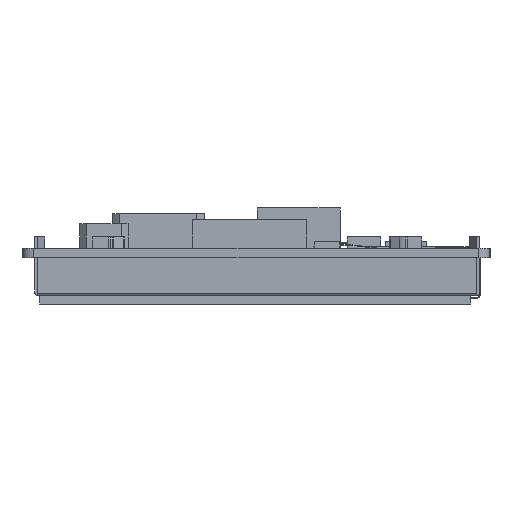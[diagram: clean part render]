
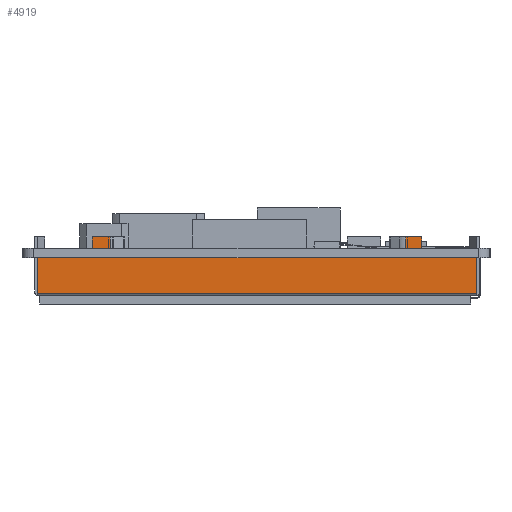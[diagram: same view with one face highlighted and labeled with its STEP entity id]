
A CAD part, left-side view. The second image highlights one B-rep face of the part: STEP entity #4919.
In plain terms, the highlighted planar face has unit normal (-1, 0, 0).
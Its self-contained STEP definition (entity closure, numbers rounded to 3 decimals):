
#3511=PLANE('',#32821);
#4919=ADVANCED_FACE('',(#6550),#3511,.F.);
#6550=FACE_OUTER_BOUND('',#8044,.T.);
#8044=EDGE_LOOP('',(#15686,#15687,#15688,#15689,#15690,#15691,#15692,#15693,
#15694,#15695,#15696,#15697,#15698,#15699,#15700,#15701));
#15686=ORIENTED_EDGE('',*,*,#23243,.F.);
#15687=ORIENTED_EDGE('',*,*,#23244,.T.);
#15688=ORIENTED_EDGE('',*,*,#23245,.T.);
#15689=ORIENTED_EDGE('',*,*,#23240,.T.);
#15690=ORIENTED_EDGE('',*,*,#23246,.T.);
#15691=ORIENTED_EDGE('',*,*,#23247,.F.);
#15692=ORIENTED_EDGE('',*,*,#23248,.T.);
#15693=ORIENTED_EDGE('',*,*,#23249,.F.);
#15694=ORIENTED_EDGE('',*,*,#23250,.F.);
#15695=ORIENTED_EDGE('',*,*,#23236,.T.);
#15696=ORIENTED_EDGE('',*,*,#23251,.T.);
#15697=ORIENTED_EDGE('',*,*,#23252,.T.);
#15698=ORIENTED_EDGE('',*,*,#23253,.F.);
#15699=ORIENTED_EDGE('',*,*,#23254,.F.);
#15700=ORIENTED_EDGE('',*,*,#23255,.F.);
#15701=ORIENTED_EDGE('',*,*,#23234,.T.);
#19297=VERTEX_POINT('',#47945);
#19299=VERTEX_POINT('',#47949);
#19300=VERTEX_POINT('',#47953);
#19302=VERTEX_POINT('',#47956);
#19304=VERTEX_POINT('',#47962);
#19306=VERTEX_POINT('',#47965);
#19308=VERTEX_POINT('',#47971);
#19309=VERTEX_POINT('',#47973);
#19310=VERTEX_POINT('',#47976);
#19311=VERTEX_POINT('',#47978);
#19312=VERTEX_POINT('',#47980);
#19313=VERTEX_POINT('',#47982);
#19314=VERTEX_POINT('',#47985);
#19315=VERTEX_POINT('',#47987);
#19316=VERTEX_POINT('',#47989);
#19317=VERTEX_POINT('',#47991);
#23234=EDGE_CURVE('',#19297,#19299,#27042,.T.);
#23236=EDGE_CURVE('',#19302,#19300,#27044,.T.);
#23240=EDGE_CURVE('',#19306,#19304,#27048,.T.);
#23243=EDGE_CURVE('',#19308,#19299,#27051,.T.);
#23244=EDGE_CURVE('',#19308,#19309,#27052,.T.);
#23245=EDGE_CURVE('',#19309,#19306,#27053,.T.);
#23246=EDGE_CURVE('',#19304,#19310,#27054,.T.);
#23247=EDGE_CURVE('',#19311,#19310,#27055,.T.);
#23248=EDGE_CURVE('',#19311,#19312,#27056,.T.);
#23249=EDGE_CURVE('',#19313,#19312,#27057,.T.);
#23250=EDGE_CURVE('',#19302,#19313,#27058,.T.);
#23251=EDGE_CURVE('',#19300,#19314,#27059,.T.);
#23252=EDGE_CURVE('',#19314,#19315,#27060,.T.);
#23253=EDGE_CURVE('',#19316,#19315,#27061,.T.);
#23254=EDGE_CURVE('',#19317,#19316,#27062,.T.);
#23255=EDGE_CURVE('',#19297,#19317,#27063,.T.);
#27042=LINE('',#47950,#30766);
#27044=LINE('',#47955,#30768);
#27048=LINE('',#47964,#30772);
#27051=LINE('',#47970,#30775);
#27052=LINE('',#47972,#30776);
#27053=LINE('',#47974,#30777);
#27054=LINE('',#47975,#30778);
#27055=LINE('',#47977,#30779);
#27056=LINE('',#47979,#30780);
#27057=LINE('',#47981,#30781);
#27058=LINE('',#47983,#30782);
#27059=LINE('',#47984,#30783);
#27060=LINE('',#47986,#30784);
#27061=LINE('',#47988,#30785);
#27062=LINE('',#47990,#30786);
#27063=LINE('',#47992,#30787);
#30766=VECTOR('',#39294,1.);
#30768=VECTOR('',#39298,1.);
#30772=VECTOR('',#39304,1.);
#30775=VECTOR('',#39309,1.);
#30776=VECTOR('',#39310,1.);
#30777=VECTOR('',#39311,1.);
#30778=VECTOR('',#39312,1.);
#30779=VECTOR('',#39313,1.);
#30780=VECTOR('',#39314,1.);
#30781=VECTOR('',#39315,1.);
#30782=VECTOR('',#39316,1.);
#30783=VECTOR('',#39317,1.);
#30784=VECTOR('',#39318,1.);
#30785=VECTOR('',#39319,1.);
#30786=VECTOR('',#39320,1.);
#30787=VECTOR('',#39321,1.);
#32821=AXIS2_PLACEMENT_3D('',#47993,#39322,#39323);
#39294=DIRECTION('',(0.,1.,0.));
#39298=DIRECTION('',(0.,1.,0.));
#39304=DIRECTION('',(0.,1.,0.));
#39309=DIRECTION('',(0.,0.,1.));
#39310=DIRECTION('',(0.,-1.,0.));
#39311=DIRECTION('',(0.,0.,1.));
#39312=DIRECTION('',(0.,0.,1.));
#39313=DIRECTION('',(0.,-1.,0.));
#39314=DIRECTION('',(0.,0.,-1.));
#39315=DIRECTION('',(0.,-1.,0.));
#39316=DIRECTION('',(0.,0.,1.));
#39317=DIRECTION('',(0.,0.,1.));
#39318=DIRECTION('',(0.,-1.,0.));
#39319=DIRECTION('',(0.,0.,-1.));
#39320=DIRECTION('',(0.,-1.,0.));
#39321=DIRECTION('',(0.,0.,1.));
#39322=DIRECTION('',(1.,0.,0.));
#39323=DIRECTION('',(0.,1.,0.));
#47945=CARTESIAN_POINT('',(59.66,45.295,-1.6));
#47949=CARTESIAN_POINT('',(59.66,54.82,-1.6));
#47950=CARTESIAN_POINT('',(59.66,-21.2,-1.6));
#47953=CARTESIAN_POINT('',(59.66,42.295,-1.6));
#47955=CARTESIAN_POINT('',(59.66,-21.2,-1.6));
#47956=CARTESIAN_POINT('',(59.66,-8.635,-1.6));
#47962=CARTESIAN_POINT('',(59.66,-11.635,-1.6));
#47964=CARTESIAN_POINT('',(59.66,-21.2,-1.6));
#47965=CARTESIAN_POINT('',(59.66,-21.2,-1.6));
#47970=CARTESIAN_POINT('',(59.66,54.82,-8.1));
#47971=CARTESIAN_POINT('',(59.66,54.82,-7.7));
#47972=CARTESIAN_POINT('',(59.66,-21.2,-7.7));
#47973=CARTESIAN_POINT('',(59.66,-21.2,-7.7));
#47974=CARTESIAN_POINT('',(59.66,-21.2,-8.1));
#47975=CARTESIAN_POINT('',(59.66,-11.635,-1.6));
#47976=CARTESIAN_POINT('',(59.66,-11.635,2.));
#47977=CARTESIAN_POINT('',(59.66,-8.924,2.));
#47978=CARTESIAN_POINT('',(59.66,-8.924,2.));
#47979=CARTESIAN_POINT('',(59.66,-8.924,2.));
#47980=CARTESIAN_POINT('',(59.66,-8.924,0.));
#47981=CARTESIAN_POINT('',(59.66,-8.635,0.));
#47982=CARTESIAN_POINT('',(59.66,-8.635,0.));
#47983=CARTESIAN_POINT('',(59.66,-8.635,-1.6));
#47984=CARTESIAN_POINT('',(59.66,42.295,-1.6));
#47985=CARTESIAN_POINT('',(59.66,42.295,0.));
#47986=CARTESIAN_POINT('',(59.66,45.295,0.));
#47987=CARTESIAN_POINT('',(59.66,42.191,0.));
#47988=CARTESIAN_POINT('',(59.66,42.191,2.));
#47989=CARTESIAN_POINT('',(59.66,42.191,2.));
#47990=CARTESIAN_POINT('',(59.66,45.295,2.));
#47991=CARTESIAN_POINT('',(59.66,45.295,2.));
#47992=CARTESIAN_POINT('',(59.66,45.295,-1.6));
#47993=CARTESIAN_POINT('',(59.66,-21.2,-8.1));
